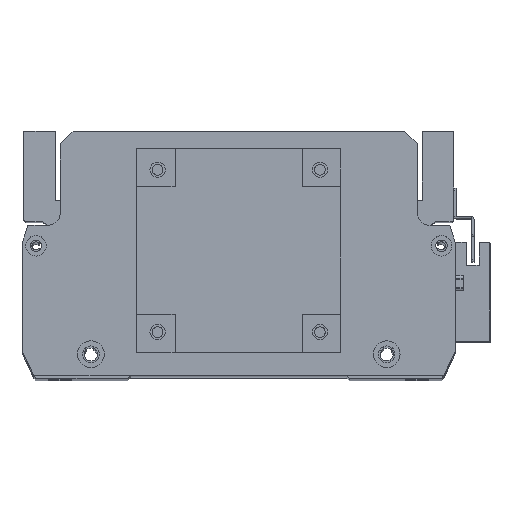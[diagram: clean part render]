
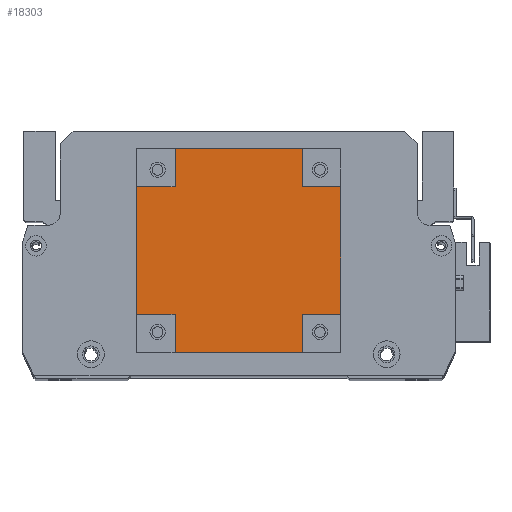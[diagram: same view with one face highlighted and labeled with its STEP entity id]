
A CAD part, top view. The second image highlights one B-rep face of the part: STEP entity #18303.
In plain terms, the highlighted planar face has unit normal (0, 0, 1).
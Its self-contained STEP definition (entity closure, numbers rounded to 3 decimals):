
#263 = DIRECTION ( 'NONE',  ( 1., 0., 0. ) ) ;
#601 = EDGE_CURVE ( 'NONE', #15403, #21913, #16191, .T. ) ;
#730 = VECTOR ( 'NONE', #5694, 1000. ) ;
#776 = EDGE_LOOP ( 'NONE', ( #1463, #14226, #20216, #15933, #21679, #8049, #16089, #16370, #18227, #20663, #7798, #15030 ) ) ;
#946 = EDGE_CURVE ( 'NONE', #11944, #2864, #9361, .T. ) ;
#1265 = DIRECTION ( 'NONE',  ( 0., 1., 0. ) ) ;
#1463 = ORIENTED_EDGE ( 'NONE', *, *, #946, .T. ) ;
#1583 = CARTESIAN_POINT ( 'NONE',  ( 15., 0., 101.5 ) ) ;
#2302 = CARTESIAN_POINT ( 'NONE',  ( 80., 15., 101.5 ) ) ;
#2751 = EDGE_CURVE ( 'NONE', #25086, #2864, #20689, .T. ) ;
#2864 = VERTEX_POINT ( 'NONE', #5629 ) ;
#3205 = VECTOR ( 'NONE', #1265, 1000. ) ;
#4055 = CARTESIAN_POINT ( 'NONE',  ( 0., 15., 101.5 ) ) ;
#4350 = FACE_OUTER_BOUND ( 'NONE', #776, .T. ) ;
#4457 = VECTOR ( 'NONE', #16451, 1000. ) ;
#4680 = AXIS2_PLACEMENT_3D ( 'NONE', #23212, #21362, #9617 ) ;
#5077 = LINE ( 'NONE', #14457, #4457 ) ;
#5116 = CARTESIAN_POINT ( 'NONE',  ( 65., 0., 101.5 ) ) ;
#5178 = VECTOR ( 'NONE', #24131, 1000. ) ;
#5629 = CARTESIAN_POINT ( 'NONE',  ( 15., 80., 101.5 ) ) ;
#5651 = VERTEX_POINT ( 'NONE', #5116 ) ;
#5694 = DIRECTION ( 'NONE',  ( -1., 0., 0. ) ) ;
#5712 = LINE ( 'NONE', #10844, #25273 ) ;
#5980 = VECTOR ( 'NONE', #263, 1000. ) ;
#6047 = DIRECTION ( 'NONE',  ( -1., 0., 0. ) ) ;
#6215 = LINE ( 'NONE', #25042, #14846 ) ;
#6250 = CARTESIAN_POINT ( 'NONE',  ( 80., 15., 101.5 ) ) ;
#6810 = LINE ( 'NONE', #11395, #16696 ) ;
#6971 = VERTEX_POINT ( 'NONE', #7195 ) ;
#7195 = CARTESIAN_POINT ( 'NONE',  ( 65., 65., 101.5 ) ) ;
#7214 = LINE ( 'NONE', #24721, #3205 ) ;
#7445 = DIRECTION ( 'NONE',  ( 0., 1., 0. ) ) ;
#7798 = ORIENTED_EDGE ( 'NONE', *, *, #18276, .F. ) ;
#8049 = ORIENTED_EDGE ( 'NONE', *, *, #13800, .F. ) ;
#8210 = DIRECTION ( 'NONE',  ( -1., 0., 0. ) ) ;
#8563 = EDGE_CURVE ( 'NONE', #14083, #22225, #13782, .T. ) ;
#8953 = CARTESIAN_POINT ( 'NONE',  ( 15., 65., 101.5 ) ) ;
#9115 = CARTESIAN_POINT ( 'NONE',  ( 65., 80., 101.5 ) ) ;
#9361 = LINE ( 'NONE', #11638, #730 ) ;
#9616 = VECTOR ( 'NONE', #7445, 1000. ) ;
#9617 = DIRECTION ( 'NONE',  ( -1., 0., 0. ) ) ;
#9845 = EDGE_CURVE ( 'NONE', #21913, #5651, #5712, .T. ) ;
#10333 = EDGE_CURVE ( 'NONE', #11944, #6971, #5077, .T. ) ;
#10471 = CARTESIAN_POINT ( 'NONE',  ( 0., 0., 101.5 ) ) ;
#10622 = VERTEX_POINT ( 'NONE', #25024 ) ;
#10844 = CARTESIAN_POINT ( 'NONE',  ( 65., 0., 101.5 ) ) ;
#10911 = VECTOR ( 'NONE', #8210, 1000. ) ;
#11195 = CARTESIAN_POINT ( 'NONE',  ( 80., 65., 101.5 ) ) ;
#11395 = CARTESIAN_POINT ( 'NONE',  ( 80., 0., 101.5 ) ) ;
#11638 = CARTESIAN_POINT ( 'NONE',  ( 0., 80., 101.5 ) ) ;
#11944 = VERTEX_POINT ( 'NONE', #9115 ) ;
#12824 = DIRECTION ( 'NONE',  ( 0., -1., 0. ) ) ;
#13152 = CARTESIAN_POINT ( 'NONE',  ( 65., 15., 101.5 ) ) ;
#13370 = DIRECTION ( 'NONE',  ( 0., 1., 0. ) ) ;
#13782 = LINE ( 'NONE', #10471, #5178 ) ;
#13800 = EDGE_CURVE ( 'NONE', #16334, #10622, #7214, .T. ) ;
#13902 = LINE ( 'NONE', #4055, #23665 ) ;
#13966 = CARTESIAN_POINT ( 'NONE',  ( 0., 65., 101.5 ) ) ;
#14083 = VERTEX_POINT ( 'NONE', #19830 ) ;
#14226 = ORIENTED_EDGE ( 'NONE', *, *, #2751, .F. ) ;
#14457 = CARTESIAN_POINT ( 'NONE',  ( 65., 80., 101.5 ) ) ;
#14846 = VECTOR ( 'NONE', #19329, 1000. ) ;
#15030 = ORIENTED_EDGE ( 'NONE', *, *, #10333, .F. ) ;
#15288 = CARTESIAN_POINT ( 'NONE',  ( 15., 80., 101.5 ) ) ;
#15403 = VERTEX_POINT ( 'NONE', #2302 ) ;
#15933 = ORIENTED_EDGE ( 'NONE', *, *, #8563, .T. ) ;
#15976 = DIRECTION ( 'NONE',  ( 1., 0., 0. ) ) ;
#16089 = ORIENTED_EDGE ( 'NONE', *, *, #23149, .T. ) ;
#16191 = LINE ( 'NONE', #6250, #10911 ) ;
#16334 = VERTEX_POINT ( 'NONE', #1583 ) ;
#16370 = ORIENTED_EDGE ( 'NONE', *, *, #9845, .F. ) ;
#16451 = DIRECTION ( 'NONE',  ( 0., -1., 0. ) ) ;
#16470 = EDGE_CURVE ( 'NONE', #10622, #22225, #13902, .T. ) ;
#16696 = VECTOR ( 'NONE', #13370, 1000. ) ;
#18216 = VECTOR ( 'NONE', #15976, 1000. ) ;
#18227 = ORIENTED_EDGE ( 'NONE', *, *, #601, .F. ) ;
#18276 = EDGE_CURVE ( 'NONE', #6971, #22396, #6215, .T. ) ;
#18303 = ADVANCED_FACE ( 'NONE', ( #4350 ), #19415, .F. ) ;
#19329 = DIRECTION ( 'NONE',  ( 1., 0., 0. ) ) ;
#19415 = PLANE ( 'NONE',  #4680 ) ;
#19830 = CARTESIAN_POINT ( 'NONE',  ( 0., 65., 101.5 ) ) ;
#20216 = ORIENTED_EDGE ( 'NONE', *, *, #24254, .F. ) ;
#20418 = CARTESIAN_POINT ( 'NONE',  ( 0., 15., 101.5 ) ) ;
#20663 = ORIENTED_EDGE ( 'NONE', *, *, #24102, .T. ) ;
#20689 = LINE ( 'NONE', #15288, #9616 ) ;
#21362 = DIRECTION ( 'NONE',  ( 0., 0., -1. ) ) ;
#21640 = LINE ( 'NONE', #23748, #5980 ) ;
#21679 = ORIENTED_EDGE ( 'NONE', *, *, #16470, .F. ) ;
#21913 = VERTEX_POINT ( 'NONE', #13152 ) ;
#22225 = VERTEX_POINT ( 'NONE', #20418 ) ;
#22396 = VERTEX_POINT ( 'NONE', #11195 ) ;
#23149 = EDGE_CURVE ( 'NONE', #16334, #5651, #21640, .T. ) ;
#23212 = CARTESIAN_POINT ( 'NONE',  ( 0., 0., 101.5 ) ) ;
#23665 = VECTOR ( 'NONE', #6047, 1000. ) ;
#23748 = CARTESIAN_POINT ( 'NONE',  ( 0., 0., 101.5 ) ) ;
#23952 = LINE ( 'NONE', #13966, #18216 ) ;
#24102 = EDGE_CURVE ( 'NONE', #15403, #22396, #6810, .T. ) ;
#24131 = DIRECTION ( 'NONE',  ( 0., -1., 0. ) ) ;
#24254 = EDGE_CURVE ( 'NONE', #14083, #25086, #23952, .T. ) ;
#24721 = CARTESIAN_POINT ( 'NONE',  ( 15., 0., 101.5 ) ) ;
#25024 = CARTESIAN_POINT ( 'NONE',  ( 15., 15., 101.5 ) ) ;
#25042 = CARTESIAN_POINT ( 'NONE',  ( 65., 65., 101.5 ) ) ;
#25086 = VERTEX_POINT ( 'NONE', #8953 ) ;
#25273 = VECTOR ( 'NONE', #12824, 1000. ) ;
